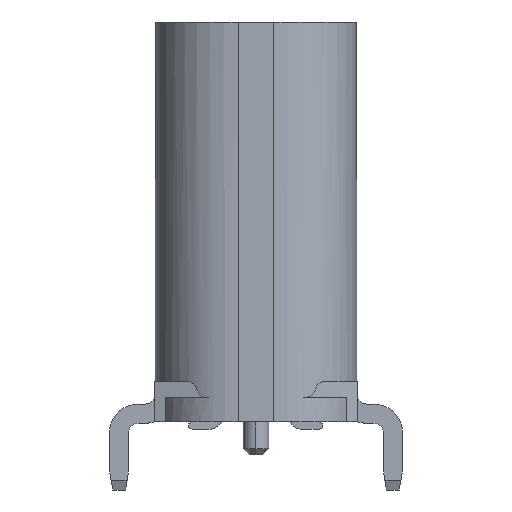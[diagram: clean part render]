
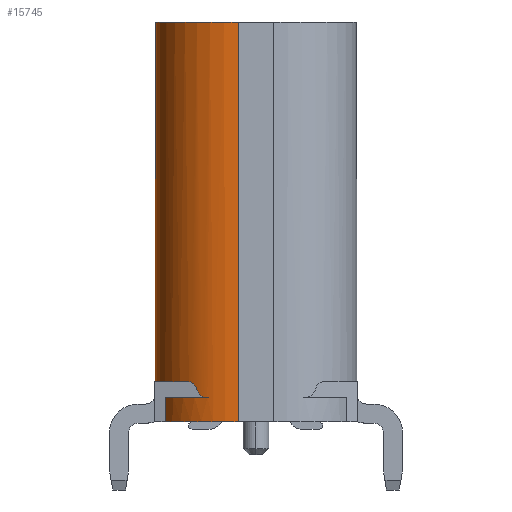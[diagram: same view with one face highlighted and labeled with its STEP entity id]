
A CAD part, left-side view. The second image highlights one B-rep face of the part: STEP entity #15745.
In plain terms, the highlighted cylindrical face has radius 1.3 mm (diameter 2.6 mm), a partial arc.
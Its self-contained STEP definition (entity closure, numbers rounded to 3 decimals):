
#33=CARTESIAN_POINT('',(-64.57,-1.771,-46.723));
#34=DIRECTION('',(0.,0.,-1.));
#35=DIRECTION('',(-0.928,0.371,0.));
#36=AXIS2_PLACEMENT_3D('',#33,#34,#35);
#186=CARTESIAN_POINT('',(-64.57,-1.771,-46.473));
#187=DIRECTION('',(0.,0.,1.));
#188=DIRECTION('',(-0.038,0.999,0.));
#189=AXIS2_PLACEMENT_3D('',#186,#187,#188);
#351=CARTESIAN_POINT('',(-64.57,-1.771,-40.823));
#352=DIRECTION('',(0.,0.,-1.));
#353=DIRECTION('',(-1.,0.,0.));
#354=AXIS2_PLACEMENT_3D('',#351,#352,#353);
#513=CARTESIAN_POINT('',(-64.57,-1.771,-46.473));
#514=DIRECTION('',(0.,0.,1.));
#515=DIRECTION('',(-0.475,0.88,0.));
#516=AXIS2_PLACEMENT_3D('',#513,#514,#515);
#558=CARTESIAN_POINT('',(-64.57,-1.771,-46.473));
#559=DIRECTION('',(0.,0.,1.));
#560=DIRECTION('',(0.,1.,0.));
#561=AXIS2_PLACEMENT_3D('',#558,#559,#560);
#637=CARTESIAN_POINT('',(-64.57,-1.771,-47.103));
#638=DIRECTION('',(0.,0.,-1.));
#639=DIRECTION('',(-1.,0.,0.));
#640=AXIS2_PLACEMENT_3D('',#637,#638,#639);
#2671=DIRECTION('',(0.,0.,-1.));
#2672=VECTOR('',#2671,0.38);
#2673=CARTESIAN_POINT('',(-65.188,-0.628,
-46.723));
#2674=LINE('',#2673,#2672);
#2675=CARTESIAN_POINT('',(-65.693,-1.116,
-46.58));
#2676=CARTESIAN_POINT('',(-65.695,-1.12,
-46.597));
#2677=CARTESIAN_POINT('',(-65.702,-1.132,
-46.628));
#2678=CARTESIAN_POINT('',(-65.718,-1.161,
-46.669));
#2679=CARTESIAN_POINT('',(-65.737,-1.197,
-46.699));
#2680=CARTESIAN_POINT('',(-65.757,-1.241,
-46.719));
#2681=CARTESIAN_POINT('',(-65.771,-1.272,
-46.723));
#2682=CARTESIAN_POINT('',(-65.777,-1.289,
-46.723));
#2684=DIRECTION('',(0.,0.,1.));
#2685=VECTOR('',#2684,5.65);
#2686=CARTESIAN_POINT('',(-64.57,-0.471,-46.473));
#2687=LINE('',#2686,#2685);
#2828=CARTESIAN_POINT('',(-65.613,-0.996,
-46.473));
#2829=CARTESIAN_POINT('',(-65.621,-1.006,
-46.473));
#2830=CARTESIAN_POINT('',(-65.636,-1.027,
-46.477));
#2831=CARTESIAN_POINT('',(-65.656,-1.057,
-46.491));
#2832=CARTESIAN_POINT('',(-65.673,-1.083,
-46.514));
#2833=CARTESIAN_POINT('',(-65.686,-1.104,
-46.544));
#2834=CARTESIAN_POINT('',(-65.691,-1.113,
-46.568));
#2835=CARTESIAN_POINT('',(-65.693,-1.116,
-46.58));
#2837=DIRECTION('',(0.,0.,1.));
#2838=VECTOR('',#2837,6.28);
#2839=CARTESIAN_POINT('',(-65.87,-1.771,-47.103));
#2840=LINE('',#2839,#2838);
#10855=CARTESIAN_POINT('',(-65.87,-1.771,-47.103));
#10857=VERTEX_POINT('',#10855);
#10878=CARTESIAN_POINT('',(-65.188,-0.628,
-46.723));
#10879=VERTEX_POINT('',#10878);
#10880=CARTESIAN_POINT('',(-65.188,-0.628,
-47.103));
#10881=VERTEX_POINT('',#10880);
#10966=CARTESIAN_POINT('',(-65.87,-1.771,-40.823));
#10967=VERTEX_POINT('',#10966);
#10968=CARTESIAN_POINT('',(-64.57,-0.471,-40.823));
#10969=VERTEX_POINT('',#10968);
#11144=CARTESIAN_POINT('',(-64.57,-0.471,-46.473));
#11145=VERTEX_POINT('',#11144);
#11207=CARTESIAN_POINT('',(-65.613,-0.996,
-46.473));
#11209=VERTEX_POINT('',#11207);
#11378=CARTESIAN_POINT('',(-65.693,-1.116,
-46.58));
#11379=VERTEX_POINT('',#11378);
#12306=CARTESIAN_POINT('',(-64.62,-0.472,
-46.473));
#12307=CARTESIAN_POINT('',(-65.188,-0.628,
-46.473));
#12308=VERTEX_POINT('',#12306);
#12309=VERTEX_POINT('',#12307);
#12366=CARTESIAN_POINT('',(-65.777,-1.289,
-46.723));
#12367=VERTEX_POINT('',#12366);
#15724=CARTESIAN_POINT('',(-64.57,-1.771,-47.103));
#15725=DIRECTION('',(0.,0.,-1.));
#15726=DIRECTION('',(1.,0.,0.));
#15727=AXIS2_PLACEMENT_3D('',#15724,#15725,#15726);
#15728=CYLINDRICAL_SURFACE('',#15727,1.3);
#15729=ORIENTED_EDGE('',*,*,#12460,.F.);
#15731=ORIENTED_EDGE('',*,*,#15730,.F.);
#15733=ORIENTED_EDGE('',*,*,#15732,.F.);
#15734=ORIENTED_EDGE('',*,*,#13035,.F.);
#15735=ORIENTED_EDGE('',*,*,#12630,.F.);
#15736=ORIENTED_EDGE('',*,*,#13077,.F.);
#15737=ORIENTED_EDGE('',*,*,#13655,.T.);
#15738=ORIENTED_EDGE('',*,*,#12873,.F.);
#15740=ORIENTED_EDGE('',*,*,#15739,.F.);
#15741=ORIENTED_EDGE('',*,*,#13150,.T.);
#15742=ORIENTED_EDGE('',*,*,#15715,.F.);
#15743=EDGE_LOOP('',(#15729,#15731,#15733,#15734,#15735,#15736,#15737,#15738,
#15740,#15741,#15742));
#15744=FACE_OUTER_BOUND('',#15743,.F.);
#37=CIRCLE('',#36,1.3);
#190=CIRCLE('',#189,1.3);
#355=CIRCLE('',#354,1.3);
#517=CIRCLE('',#516,1.3);
#562=CIRCLE('',#561,1.3);
#641=CIRCLE('',#640,1.3);
#2683=B_SPLINE_CURVE_WITH_KNOTS('',3,(#2675,#2676,#2677,#2678,#2679,#2680,#2681,
#2682),.UNSPECIFIED.,.F.,.F.,(4,1,1,1,1,4),(0.,0.2,0.4,0.6,0.8,1.),
.UNSPECIFIED.);
#2836=B_SPLINE_CURVE_WITH_KNOTS('',3,(#2828,#2829,#2830,#2831,#2832,#2833,#2834,
#2835),.UNSPECIFIED.,.F.,.F.,(4,1,1,1,1,4),(0.,0.2,0.4,0.6,0.8,1.),
.UNSPECIFIED.);
#12460=EDGE_CURVE('',#12367,#10879,#37,.T.);
#12630=EDGE_CURVE('',#12308,#12309,#190,.T.);
#12873=EDGE_CURVE('',#10967,#10969,#355,.T.);
#13035=EDGE_CURVE('',#12309,#11209,#517,.T.);
#13077=EDGE_CURVE('',#11145,#12308,#562,.T.);
#13150=EDGE_CURVE('',#10857,#10881,#641,.T.);
#13655=EDGE_CURVE('',#11145,#10969,#2687,.T.);
#15715=EDGE_CURVE('',#10879,#10881,#2674,.T.);
#15730=EDGE_CURVE('',#11379,#12367,#2683,.T.);
#15732=EDGE_CURVE('',#11209,#11379,#2836,.T.);
#15739=EDGE_CURVE('',#10857,#10967,#2840,.T.);
#15745=ADVANCED_FACE('',(#15744),#15728,.T.);
